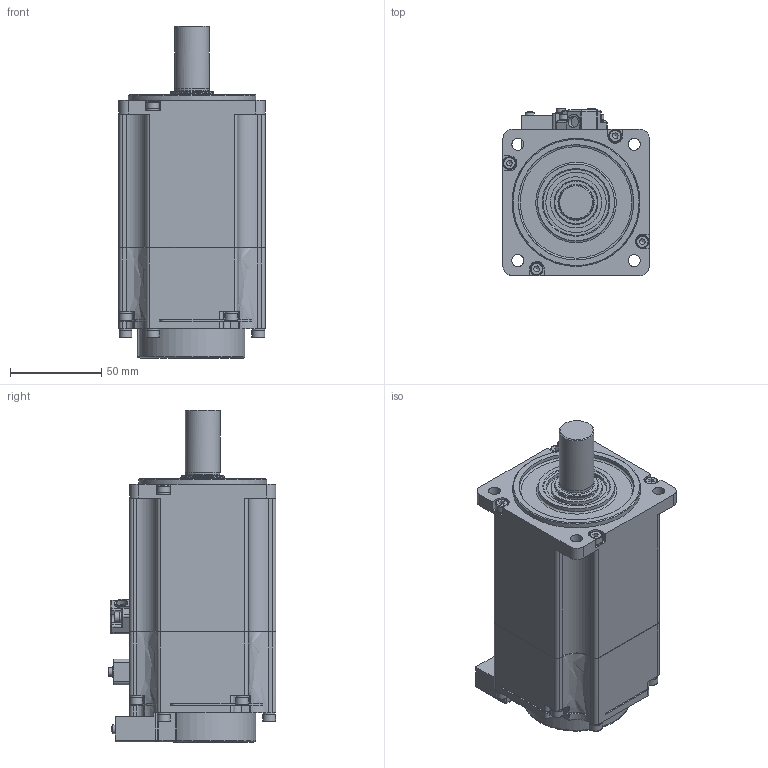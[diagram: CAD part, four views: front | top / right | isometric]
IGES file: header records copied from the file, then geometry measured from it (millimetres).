
Global section: file name: L075B; native system: Autodesk Inventor 2014; preprocessor: unknown; author: Mejust; date: 20160718.101601; units: millimetre
Bounding box: 80.07 x 91.82 x 181.7 mm (x, y, z)
Volume: 188472.7 mm3; surface area: 117250.3 mm2
Topology: 2 solids, 48 shells, 1029 faces, 2677 edges, 1789 vertices
Faces by surface type: bspline 1029
